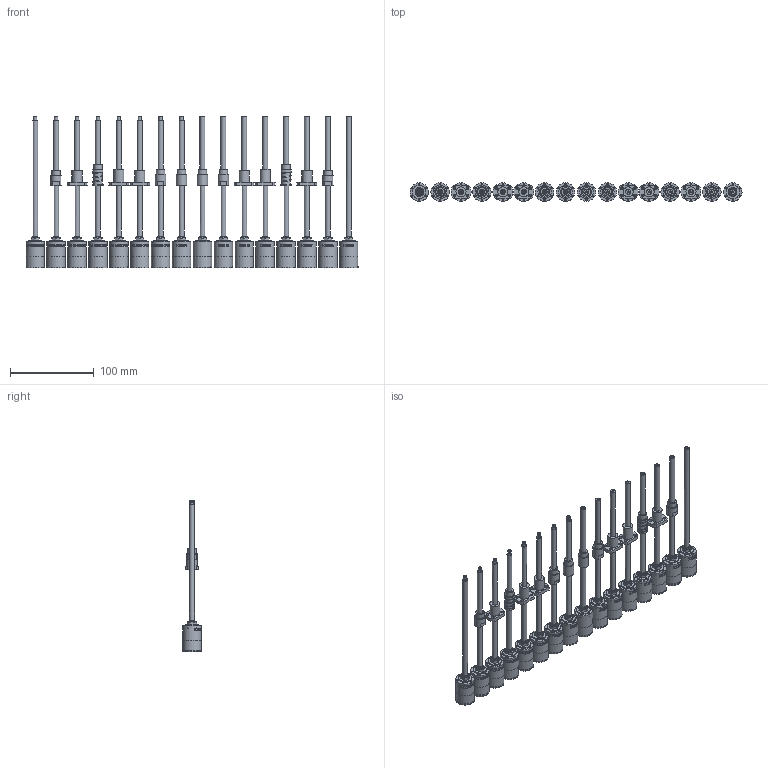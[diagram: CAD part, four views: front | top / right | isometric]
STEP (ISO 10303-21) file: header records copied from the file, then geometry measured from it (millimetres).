
FILE_DESCRIPTION(/* description */ (''),/* implementation_level */ '2;1');
FILE_NAME(/* name */ '922L-1stage_standard+KWNx+KWS1.stp',/* time_stamp */ '2022-11-04T08:18:11+01:00',/* author */ ('DR. FRITZ FAULHABER GmbH & Co. KG'),/* organization */ ('DR. FRITZ FAULHABER GmbH & Co. KG'),/* preprocessor_version */ 'ST-DEVELOPER v16.7',/* originating_system */ 'SIEMENS PLM Software NX 1919',/* authorisation */ '');
FILE_SCHEMA (('AUTOMOTIVE_DESIGN { 1 0 10303 214 3 1 1 1 }'));
Length unit declared in the file: millimetre
Products named in the file (1): LA_part
Bounding box: 397 x 22.01 x 180.9 mm (x, y, z)
Volume: 274222 mm3; surface area: 110980.8 mm2
Topology: 16 solids, 16 shells, 2084 faces, 5018 edges, 3377 vertices
Faces by surface type: plane 1090, cylinder 555, bspline 391, torus 32, cone 16
Full cylindrical faces by diameter (mm): 1.6 x96, 3.4 x24, 4 x8, 6 x46, 6.6 x16, 10 x8, 10.068 x16, 10.1 x2, 12 x20, 12.5 x8, 16 x16, 20.8 x16, 21 x16, 21.999 x16, 22 x32
Entity records: 110251 total; most frequent: CARTESIAN_POINT 60261, ORIENTED_EDGE 8992, DIRECTION 7287, EDGE_CURVE 4496, VERTEX_POINT 3265, AXIS2_PLACEMENT_3D 3049, EDGE_LOOP 2941, ADVANCED_FACE 2084
